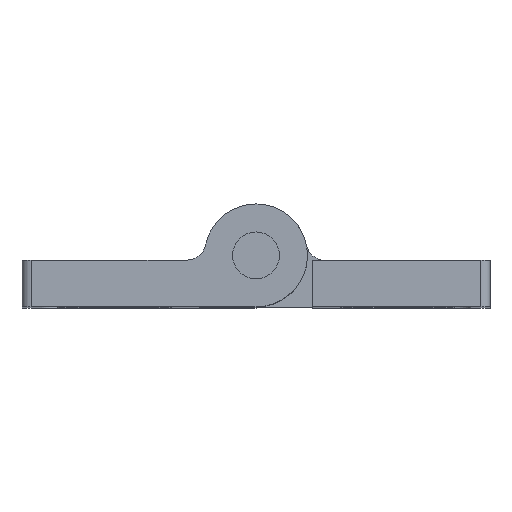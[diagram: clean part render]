
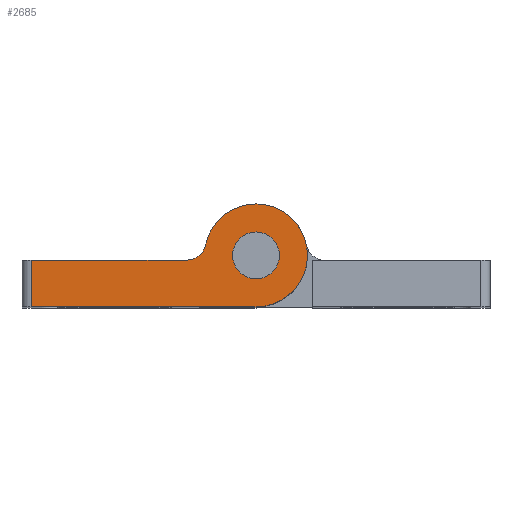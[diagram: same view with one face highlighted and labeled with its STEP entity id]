
A CAD part, top view. The second image highlights one B-rep face of the part: STEP entity #2685.
In plain terms, the highlighted planar face has unit normal (0, 0, 1).
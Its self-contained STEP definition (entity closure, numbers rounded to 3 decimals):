
#116 = VERTEX_POINT ( 'NONE', #812 ) ;
#133 = CIRCLE ( 'NONE', #817, 2.5 ) ;
#261 = DIRECTION ( 'NONE',  ( 0., 0., -1. ) ) ;
#334 = VERTEX_POINT ( 'NONE', #2075 ) ;
#388 = EDGE_CURVE ( 'NONE', #541, #1709, #4625, .T. ) ;
#403 = DIRECTION ( 'NONE',  ( -1., 0., 0. ) ) ;
#541 = VERTEX_POINT ( 'NONE', #1064 ) ;
#675 = VECTOR ( 'NONE', #403, 1000. ) ;
#731 = CIRCLE ( 'NONE', #1901, 2. ) ;
#812 = CARTESIAN_POINT ( 'NONE',  ( -7.348, -0.5, 37.5 ) ) ;
#817 = AXIS2_PLACEMENT_3D ( 'NONE', #2442, #261, #2824 ) ;
#910 = DIRECTION ( 'NONE',  ( 0., 0., 1. ) ) ;
#976 = CARTESIAN_POINT ( 'NONE',  ( -24., -0.5, 37.5 ) ) ;
#988 = AXIS2_PLACEMENT_3D ( 'NONE', #4561, #910, #3459 ) ;
#1064 = CARTESIAN_POINT ( 'NONE',  ( -2.5, 0., 37.5 ) ) ;
#1076 = ORIENTED_EDGE ( 'NONE', *, *, #1077, .T. ) ;
#1077 = EDGE_CURVE ( 'NONE', #2067, #116, #731, .T. ) ;
#1098 = CARTESIAN_POINT ( 'NONE',  ( -5.389, 1.1, 37.5 ) ) ;
#1272 = EDGE_CURVE ( 'NONE', #116, #4699, #1633, .T. ) ;
#1279 = DIRECTION ( 'NONE',  ( 0., -1., 0. ) ) ;
#1393 = DIRECTION ( 'NONE',  ( 0., 0., -1. ) ) ;
#1540 = AXIS2_PLACEMENT_3D ( 'NONE', #1989, #4563, #2353 ) ;
#1586 = ORIENTED_EDGE ( 'NONE', *, *, #1272, .T. ) ;
#1607 = EDGE_LOOP ( 'NONE', ( #2058, #1076, #1586, #1721, #4100 ) ) ;
#1633 = LINE ( 'NONE', #2224, #675 ) ;
#1709 = VERTEX_POINT ( 'NONE', #4164 ) ;
#1721 = ORIENTED_EDGE ( 'NONE', *, *, #3221, .T. ) ;
#1798 = CARTESIAN_POINT ( 'NONE',  ( -7.348, 1.5, 37.5 ) ) ;
#1868 = ORIENTED_EDGE ( 'NONE', *, *, #388, .T. ) ;
#1901 = AXIS2_PLACEMENT_3D ( 'NONE', #1798, #4365, #2172 ) ;
#1954 = LINE ( 'NONE', #4659, #3669 ) ;
#1989 = CARTESIAN_POINT ( 'NONE',  ( 0., 0., 37.5 ) ) ;
#2058 = ORIENTED_EDGE ( 'NONE', *, *, #3188, .T. ) ;
#2067 = VERTEX_POINT ( 'NONE', #1098 ) ;
#2075 = CARTESIAN_POINT ( 'NONE',  ( -24., -5.5, 37.5 ) ) ;
#2172 = DIRECTION ( 'NONE',  ( 1., 0., 0. ) ) ;
#2224 = CARTESIAN_POINT ( 'NONE',  ( -5.5, -0.5, 37.5 ) ) ;
#2226 = VERTEX_POINT ( 'NONE', #4441 ) ;
#2353 = DIRECTION ( 'NONE',  ( 1., 0., 0. ) ) ;
#2442 = CARTESIAN_POINT ( 'NONE',  ( 0., 0., 37.5 ) ) ;
#2685 = ADVANCED_FACE ( 'NONE', ( #3235, #4081 ), #3097, .T. ) ;
#2824 = DIRECTION ( 'NONE',  ( -1., 0., 0. ) ) ;
#3097 = PLANE ( 'NONE',  #988 ) ;
#3152 = AXIS2_PLACEMENT_3D ( 'NONE', #3574, #1393, #3944 ) ;
#3188 = EDGE_CURVE ( 'NONE', #2226, #2067, #3731, .T. ) ;
#3199 = DIRECTION ( 'NONE',  ( 1., 0., 0. ) ) ;
#3221 = EDGE_CURVE ( 'NONE', #4699, #334, #3625, .T. ) ;
#3235 = FACE_BOUND ( 'NONE', #3835, .T. ) ;
#3459 = DIRECTION ( 'NONE',  ( 1., 0., 0. ) ) ;
#3461 = CARTESIAN_POINT ( 'NONE',  ( -24., -5.5, 37.5 ) ) ;
#3574 = CARTESIAN_POINT ( 'NONE',  ( 0., 0., 37.5 ) ) ;
#3625 = LINE ( 'NONE', #3461, #4490 ) ;
#3669 = VECTOR ( 'NONE', #3199, 1000. ) ;
#3731 = CIRCLE ( 'NONE', #1540, 5.5 ) ;
#3835 = EDGE_LOOP ( 'NONE', ( #1868, #4704 ) ) ;
#3944 = DIRECTION ( 'NONE',  ( -1., 0., 0. ) ) ;
#4081 = FACE_OUTER_BOUND ( 'NONE', #1607, .T. ) ;
#4100 = ORIENTED_EDGE ( 'NONE', *, *, #4201, .T. ) ;
#4150 = EDGE_CURVE ( 'NONE', #1709, #541, #133, .T. ) ;
#4164 = CARTESIAN_POINT ( 'NONE',  ( 2.5, 0., 37.5 ) ) ;
#4201 = EDGE_CURVE ( 'NONE', #334, #2226, #1954, .T. ) ;
#4365 = DIRECTION ( 'NONE',  ( 0., 0., -1. ) ) ;
#4441 = CARTESIAN_POINT ( 'NONE',  ( 0., -5.5, 37.5 ) ) ;
#4490 = VECTOR ( 'NONE', #1279, 1000. ) ;
#4561 = CARTESIAN_POINT ( 'NONE',  ( 0., 0., 37.5 ) ) ;
#4563 = DIRECTION ( 'NONE',  ( 0., 0., 1. ) ) ;
#4625 = CIRCLE ( 'NONE', #3152, 2.5 ) ;
#4659 = CARTESIAN_POINT ( 'NONE',  ( -25., -5.5, 37.5 ) ) ;
#4699 = VERTEX_POINT ( 'NONE', #976 ) ;
#4704 = ORIENTED_EDGE ( 'NONE', *, *, #4150, .T. ) ;
